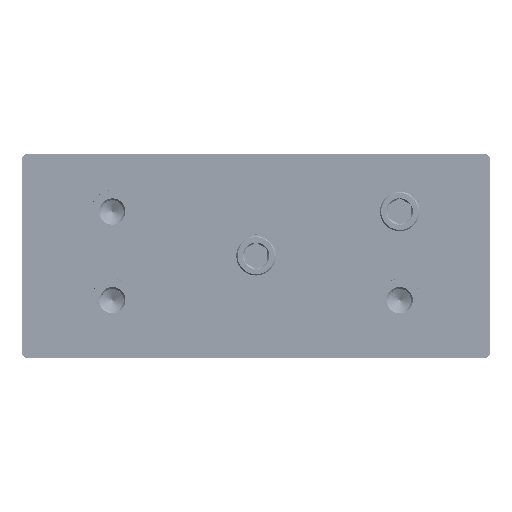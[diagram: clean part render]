
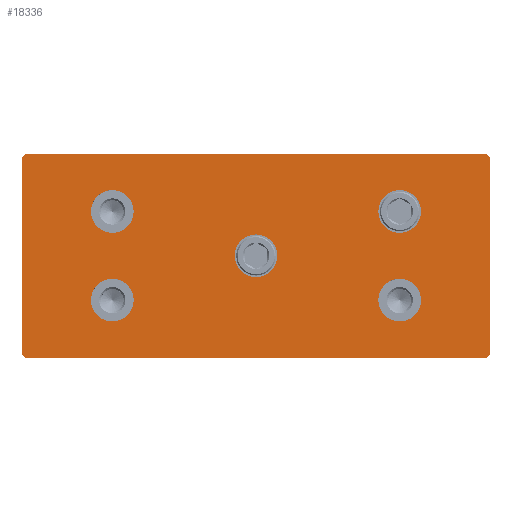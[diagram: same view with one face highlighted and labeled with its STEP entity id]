
A CAD part, top view. The second image highlights one B-rep face of the part: STEP entity #18336.
In plain terms, the highlighted planar face has unit normal (0, 0, 1).
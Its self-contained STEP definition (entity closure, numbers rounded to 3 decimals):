
#843=PLANE('',#19386);
#1051=FACE_BOUND('',#4095,.T.);
#1052=FACE_BOUND('',#4096,.T.);
#1053=FACE_BOUND('',#4097,.T.);
#1054=FACE_BOUND('',#4098,.T.);
#1055=FACE_BOUND('',#4099,.T.);
#2957=FACE_OUTER_BOUND('',#4094,.T.);
#4094=EDGE_LOOP('',(#15218,#15219,#15220,#15221,#15222,#15223,#15224,#15225));
#4095=EDGE_LOOP('',(#15226));
#4096=EDGE_LOOP('',(#15227));
#4097=EDGE_LOOP('',(#15228));
#4098=EDGE_LOOP('',(#15229));
#4099=EDGE_LOOP('',(#15230));
#5513=LINE('',#33080,#6735);
#5518=LINE('',#33098,#6740);
#5521=LINE('',#33104,#6743);
#5528=LINE('',#33128,#6750);
#5530=LINE('',#33132,#6752);
#5531=LINE('',#33135,#6753);
#5534=LINE('',#33141,#6756);
#5535=LINE('',#33143,#6757);
#6735=VECTOR('',#21731,1000.);
#6740=VECTOR('',#21756,10.);
#6743=VECTOR('',#21761,1000.);
#6750=VECTOR('',#21782,10.);
#6752=VECTOR('',#21786,1000.);
#6753=VECTOR('',#21789,10.);
#6756=VECTOR('',#21796,10.);
#6757=VECTOR('',#21799,1000.);
#7271=CIRCLE('',#19387,13.);
#7272=CIRCLE('',#19388,13.);
#7273=CIRCLE('',#19389,13.);
#7274=CIRCLE('',#19390,13.);
#7275=CIRCLE('',#19391,13.);
#8722=VERTEX_POINT('',#33076);
#8724=VERTEX_POINT('',#33079);
#8727=VERTEX_POINT('',#33096);
#8729=VERTEX_POINT('',#33102);
#8739=VERTEX_POINT('',#33126);
#8740=VERTEX_POINT('',#33130);
#8741=VERTEX_POINT('',#33134);
#8742=VERTEX_POINT('',#33139);
#8743=VERTEX_POINT('',#33144);
#8744=VERTEX_POINT('',#33146);
#8745=VERTEX_POINT('',#33148);
#8746=VERTEX_POINT('',#33150);
#8747=VERTEX_POINT('',#33152);
#11000=EDGE_CURVE('',#8724,#8722,#5513,.T.);
#11005=EDGE_CURVE('',#8727,#8722,#5518,.T.);
#11008=EDGE_CURVE('',#8727,#8729,#5521,.T.);
#11020=EDGE_CURVE('',#8739,#8729,#5528,.T.);
#11022=EDGE_CURVE('',#8739,#8740,#5530,.T.);
#11023=EDGE_CURVE('',#8724,#8741,#5531,.T.);
#11026=EDGE_CURVE('',#8742,#8740,#5534,.T.);
#11027=EDGE_CURVE('',#8742,#8741,#5535,.T.);
#11028=EDGE_CURVE('',#8743,#8743,#7271,.T.);
#11029=EDGE_CURVE('',#8744,#8744,#7272,.T.);
#11030=EDGE_CURVE('',#8745,#8745,#7273,.T.);
#11031=EDGE_CURVE('',#8746,#8746,#7274,.T.);
#11032=EDGE_CURVE('',#8747,#8747,#7275,.T.);
#15218=ORIENTED_EDGE('',*,*,#11005,.F.);
#15219=ORIENTED_EDGE('',*,*,#11008,.T.);
#15220=ORIENTED_EDGE('',*,*,#11020,.F.);
#15221=ORIENTED_EDGE('',*,*,#11022,.T.);
#15222=ORIENTED_EDGE('',*,*,#11026,.F.);
#15223=ORIENTED_EDGE('',*,*,#11027,.T.);
#15224=ORIENTED_EDGE('',*,*,#11023,.F.);
#15225=ORIENTED_EDGE('',*,*,#11000,.T.);
#15226=ORIENTED_EDGE('',*,*,#11028,.F.);
#15227=ORIENTED_EDGE('',*,*,#11029,.F.);
#15228=ORIENTED_EDGE('',*,*,#11030,.F.);
#15229=ORIENTED_EDGE('',*,*,#11031,.F.);
#15230=ORIENTED_EDGE('',*,*,#11032,.T.);
#18336=ADVANCED_FACE('',(#2957,#1051,#1052,#1053,#1054,#1055),#843,.T.);
#19386=AXIS2_PLACEMENT_3D('',#33142,#21797,#21798);
#19387=AXIS2_PLACEMENT_3D('',#33145,#21800,#21801);
#19388=AXIS2_PLACEMENT_3D('',#33147,#21802,#21803);
#19389=AXIS2_PLACEMENT_3D('',#33149,#21804,#21805);
#19390=AXIS2_PLACEMENT_3D('',#33151,#21806,#21807);
#19391=AXIS2_PLACEMENT_3D('',#33153,#21808,#21809);
#21731=DIRECTION('',(-1.,0.,0.));
#21756=DIRECTION('',(0.707,0.707,0.));
#21761=DIRECTION('',(0.,-1.,0.));
#21782=DIRECTION('',(-0.707,0.707,0.));
#21786=DIRECTION('',(1.,0.,0.));
#21789=DIRECTION('',(0.707,-0.707,0.));
#21796=DIRECTION('',(-0.707,-0.707,0.));
#21797=DIRECTION('center_axis',(0.,0.,1.));
#21798=DIRECTION('ref_axis',(1.,0.,0.));
#21799=DIRECTION('',(0.,1.,0.));
#21800=DIRECTION('center_axis',(0.,0.,1.));
#21801=DIRECTION('ref_axis',(1.,0.,0.));
#21802=DIRECTION('center_axis',(0.,0.,1.));
#21803=DIRECTION('ref_axis',(1.,0.,0.));
#21804=DIRECTION('center_axis',(0.,0.,1.));
#21805=DIRECTION('ref_axis',(1.,0.,0.));
#21806=DIRECTION('center_axis',(0.,0.,1.));
#21807=DIRECTION('ref_axis',(1.,0.,0.));
#21808=DIRECTION('center_axis',(0.,0.,-1.));
#21809=DIRECTION('ref_axis',(-1.,0.,0.));
#33076=CARTESIAN_POINT('',(-140.5,62.,38.));
#33079=CARTESIAN_POINT('',(140.5,62.,38.));
#33080=CARTESIAN_POINT('',(142.5,62.,38.));
#33096=CARTESIAN_POINT('',(-142.5,60.,38.));
#33098=CARTESIAN_POINT('',(-121.375,81.125,38.));
#33102=CARTESIAN_POINT('',(-142.5,-60.,38.));
#33104=CARTESIAN_POINT('',(-142.5,62.,38.));
#33126=CARTESIAN_POINT('',(-140.5,-62.,38.));
#33128=CARTESIAN_POINT('',(-121.375,-81.125,38.));
#33130=CARTESIAN_POINT('',(140.5,-62.,38.));
#33132=CARTESIAN_POINT('',(-142.5,-62.,38.));
#33134=CARTESIAN_POINT('',(142.5,60.,38.));
#33135=CARTESIAN_POINT('',(121.375,81.125,38.));
#33139=CARTESIAN_POINT('',(142.5,-60.,38.));
#33141=CARTESIAN_POINT('',(121.375,-81.125,38.));
#33142=CARTESIAN_POINT('Origin',(0.,0.,38.));
#33143=CARTESIAN_POINT('',(142.5,-62.,38.));
#33144=CARTESIAN_POINT('',(74.5,27.,38.));
#33145=CARTESIAN_POINT('Origin',(87.5,27.,38.));
#33146=CARTESIAN_POINT('',(-100.5,27.,38.));
#33147=CARTESIAN_POINT('Origin',(-87.5,27.,38.));
#33148=CARTESIAN_POINT('',(-100.5,-27.,38.));
#33149=CARTESIAN_POINT('Origin',(-87.5,-27.,38.));
#33150=CARTESIAN_POINT('',(74.5,-27.,38.));
#33151=CARTESIAN_POINT('Origin',(87.5,-27.,38.));
#33152=CARTESIAN_POINT('',(13.,0.,38.));
#33153=CARTESIAN_POINT('Origin',(0.,0.,38.));
